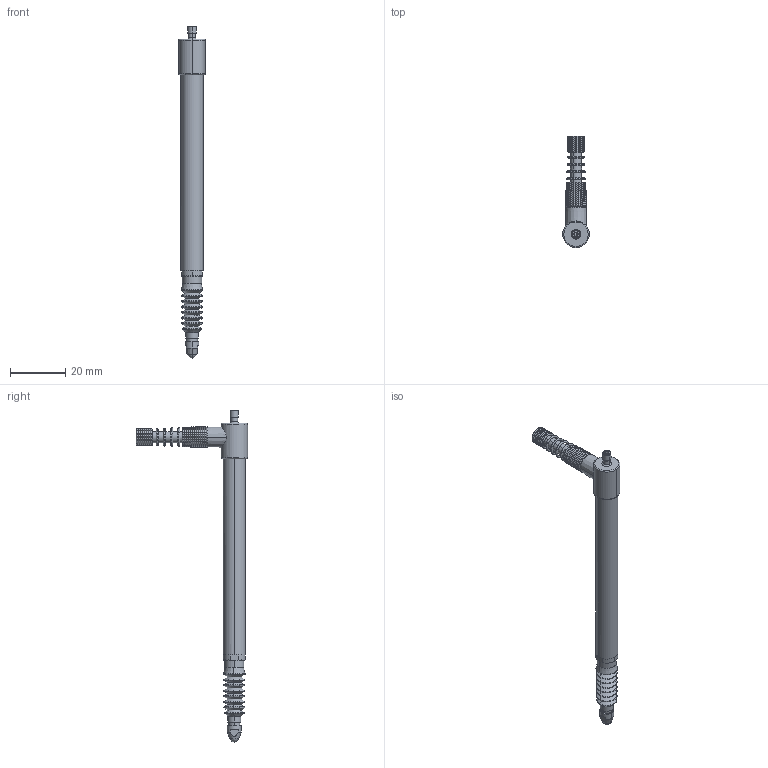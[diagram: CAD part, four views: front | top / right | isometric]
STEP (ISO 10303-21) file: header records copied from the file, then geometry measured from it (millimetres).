
FILE_DESCRIPTION (( 'STEP AP214' ), '1' );
FILE_NAME ('Full_Assy_DP-10VA_exterior.STEP', '2015-10-07T05:35:02', ( 'ysgoodman' ), ( '' ), 'SwSTEP 2.0', 'SolidWorks 2014', '' );
FILE_SCHEMA (( 'AUTOMOTIVE_DESIGN' ));
Length unit declared in the file: millimetre
Products named in the file (1): Full_Assy_DP-10VA_exterior
Bounding box: 9.6 x 40.2 x 120.11 mm (x, y, z)
Surface area: 4814.9 mm2 (no closed solid volume)
Topology: 0 solids, 34 shells, 216 faces, 485 edges, 278 vertices
Faces by surface type: torus 128, cone 41, cylinder 29, plane 16, sphere 2
Entity records: 8577 total; most frequent: DIRECTION 1281, CARTESIAN_POINT 1157, ORIENTED_EDGE 900, AXIS2_PLACEMENT_3D 597, EDGE_CURVE 480, CIRCLE 380, VERTEX_POINT 275, EDGE_LOOP 226
